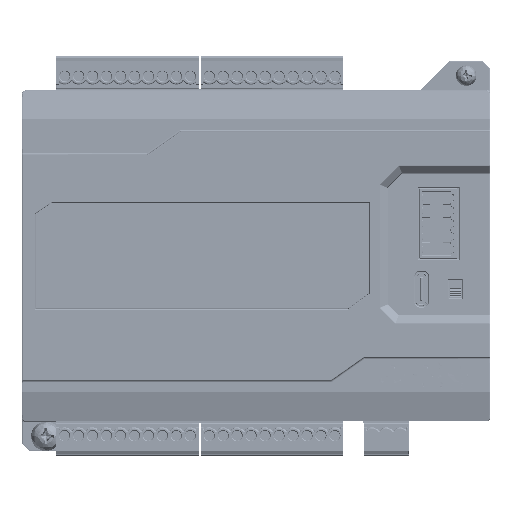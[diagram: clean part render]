
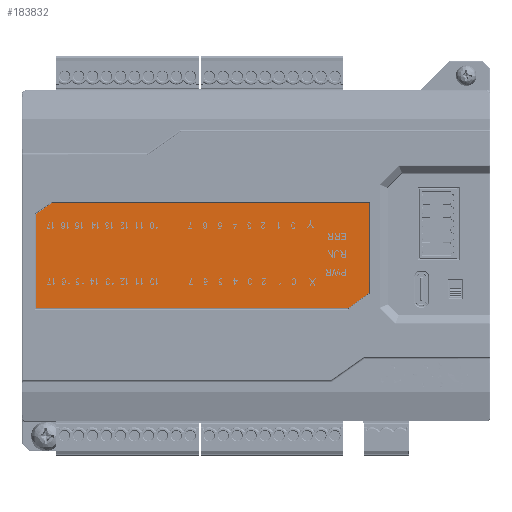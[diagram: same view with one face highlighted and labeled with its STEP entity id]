
A CAD part, front view. The second image highlights one B-rep face of the part: STEP entity #183832.
In plain terms, the highlighted planar face has unit normal (0, -1, 0).
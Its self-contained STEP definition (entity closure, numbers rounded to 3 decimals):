
#183329=DIRECTION('',(0.828,0.,0.56));
#183330=VECTOR('',#183329,5.185);
#183331=CARTESIAN_POINT('',(55.37,-16.061,
49.098));
#183332=LINE('',#183331,#183330);
#183336=DIRECTION('',(1.,0.,0.));
#183337=VECTOR('',#183336,86.404);
#183338=CARTESIAN_POINT('',(-31.033,-16.061,
49.098));
#183339=LINE('',#183338,#183337);
#183343=DIRECTION('',(0.,0.,-1.));
#183344=VECTOR('',#183343,24.517);
#183345=CARTESIAN_POINT('',(-31.033,-16.061,
73.616));
#183346=LINE('',#183345,#183344);
#183350=DIRECTION('',(-0.805,0.,-0.593));
#183351=VECTOR('',#183350,7.062);
#183352=CARTESIAN_POINT('',(-25.349,-16.061,
77.806));
#183353=LINE('',#183352,#183351);
#183357=DIRECTION('',(-1.,0.,0.));
#183358=VECTOR('',#183357,85.014);
#183359=CARTESIAN_POINT('',(59.665,-16.061,
77.806));
#183360=LINE('',#183359,#183358);
#183364=DIRECTION('',(0.,0.,1.));
#183365=VECTOR('',#183364,25.802);
#183366=CARTESIAN_POINT('',(59.665,-16.061,
52.004));
#183367=LINE('',#183366,#183365);
#183733=CARTESIAN_POINT('',(55.37,-16.061,
49.098));
#183734=CARTESIAN_POINT('',(59.665,-16.061,
52.004));
#183735=VERTEX_POINT('',#183733);
#183736=VERTEX_POINT('',#183734);
#183743=CARTESIAN_POINT('',(59.665,-16.061,
77.806));
#183744=VERTEX_POINT('',#183743);
#183749=CARTESIAN_POINT('',(-25.349,-16.061,
77.806));
#183750=VERTEX_POINT('',#183749);
#183755=CARTESIAN_POINT('',(-31.033,-16.061,
73.616));
#183756=VERTEX_POINT('',#183755);
#183761=CARTESIAN_POINT('',(-31.033,-16.061,
49.098));
#183762=VERTEX_POINT('',#183761);
#183814=CARTESIAN_POINT('',(14.316,-16.061,
63.452));
#183815=DIRECTION('',(0.,1.,0.));
#183816=DIRECTION('',(-1.,0.,0.));
#183817=AXIS2_PLACEMENT_3D('',#183814,#183815,#183816);
#183818=PLANE('',#183817);
#183820=ORIENTED_EDGE('',*,*,#183819,.F.);
#183822=ORIENTED_EDGE('',*,*,#183821,.F.);
#183824=ORIENTED_EDGE('',*,*,#183823,.F.);
#183826=ORIENTED_EDGE('',*,*,#183825,.F.);
#183827=ORIENTED_EDGE('',*,*,#183797,.F.);
#183829=ORIENTED_EDGE('',*,*,#183828,.F.);
#183830=EDGE_LOOP('',(#183820,#183822,#183824,#183826,#183827,#183829));
#183831=FACE_OUTER_BOUND('',#183830,.F.);
#183832=ADVANCED_FACE('',(#183831),#183818,.F.);
#183797=EDGE_CURVE('',#183744,#183750,#183360,.T.);
#183819=EDGE_CURVE('',#183735,#183736,#183332,.T.);
#183821=EDGE_CURVE('',#183762,#183735,#183339,.T.);
#183823=EDGE_CURVE('',#183756,#183762,#183346,.T.);
#183825=EDGE_CURVE('',#183750,#183756,#183353,.T.);
#183828=EDGE_CURVE('',#183736,#183744,#183367,.T.);
